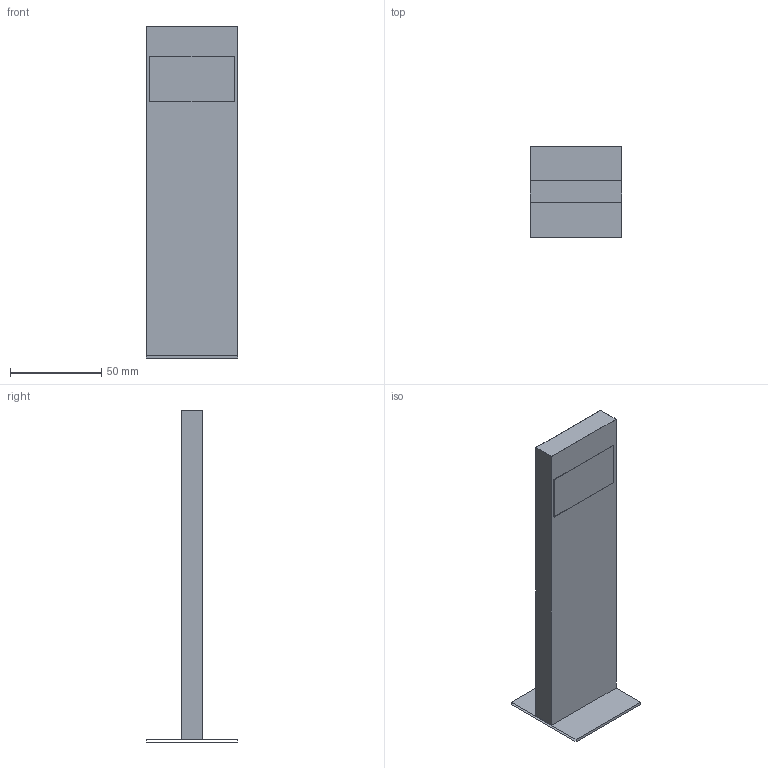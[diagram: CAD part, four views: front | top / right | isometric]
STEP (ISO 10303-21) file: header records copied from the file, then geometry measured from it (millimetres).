
FILE_DESCRIPTION(/* description */ (''),/* implementation_level */ '2;1');
FILE_NAME(/* name */ 'Prometeo_3D',/* time_stamp */ '2012-02-08T11:51:22+01:00',/* author */ (''),/* organization */ (''),/* preprocessor_version */ 'ST-DEVELOPER v10',/* originating_system */ '',/* authorisation */ '');
FILE_SCHEMA (('CONFIG_CONTROL_DESIGN'));
Length unit declared in the file: millimetre
Products named in the file (1): 1
Bounding box: 50 x 50 x 181.5 mm (x, y, z)
Surface area: 31008.4 mm2
Topology: 2 solids, 5 shells, 24 faces, 69 edges, 49 vertices
Faces by surface type: plane 24
Entity records: 765 total; most frequent: CARTESIAN_POINT 217, ORIENTED_EDGE 104, B_SPLINE_CURVE_WITH_KNOTS 69, EDGE_CURVE 68, VERTEX_POINT 48, DIRECTION 32, AXIS2_PLACEMENT_3D 28, EDGE_LOOP 26
